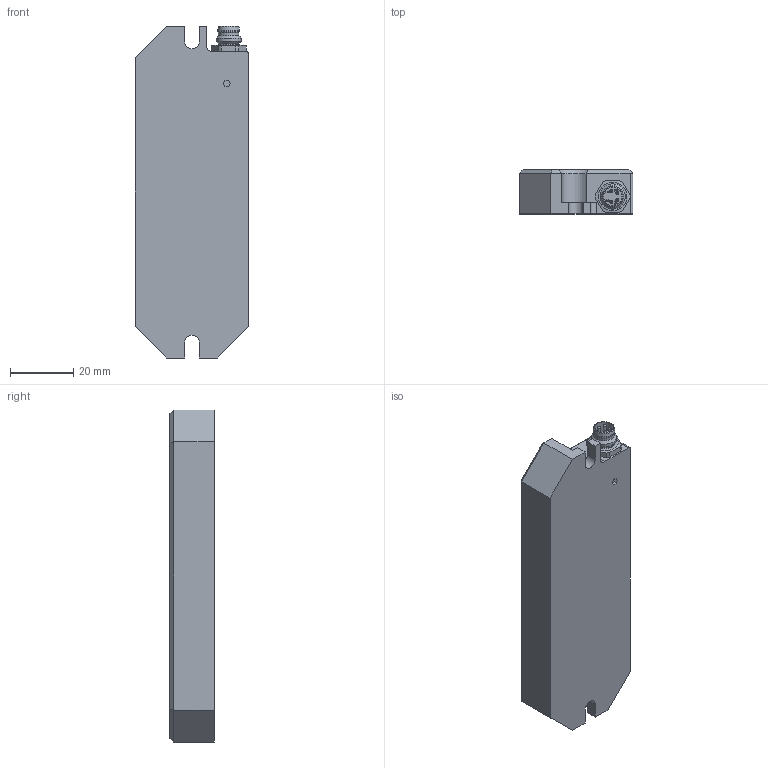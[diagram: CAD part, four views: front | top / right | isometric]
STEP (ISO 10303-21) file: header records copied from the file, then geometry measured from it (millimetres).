
FILE_DESCRIPTION(/* description */ (''),/* implementation_level */ '2;1');
FILE_NAME(/* name */ 'HELULIGHT COMPACT 105.step',/* time_stamp */ '2026-01-06T11:06:57+01:00',/* author */ (''),/* organization */ (''),/* preprocessor_version */ 'ST-DEVELOPER v20.1',/* originating_system */ 'Autodesk Translation Framework v14.21.0.0',/* authorisation */ '');
FILE_SCHEMA (('AUTOMOTIVE_DESIGN { 1 0 10303 214 3 1 1 }'));
Length unit declared in the file: millimetre
Products named in the file (1): HELULIGHT COMPACT_Einfach
Bounding box: 36 x 14 x 105 mm (x, y, z)
Volume: 47491.5 mm3; surface area: 12116.7 mm2
Topology: 1 solids, 6 shells, 182 faces, 450 edges, 292 vertices
Faces by surface type: plane 102, cylinder 36, bspline 29, cone 12, torus 3
Full cylindrical faces by diameter (mm): 1 x4, 5.3 x3, 5.35 x3, 5.75 x1, 5.8 x1, 6.5 x2, 6.9 x1, 8 x1
Entity records: 5711 total; most frequent: CARTESIAN_POINT 1473, ORIENTED_EDGE 900, DIRECTION 800, EDGE_CURVE 450, VERTEX_POINT 292, LINE 282, VECTOR 282, AXIS2_PLACEMENT_3D 259
